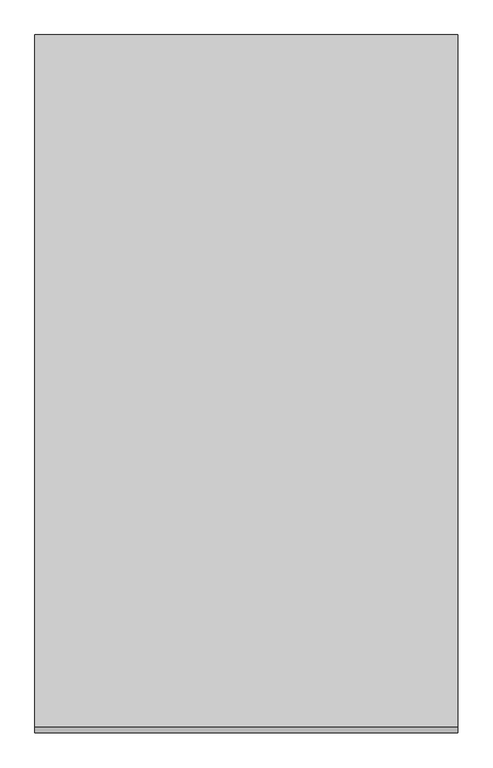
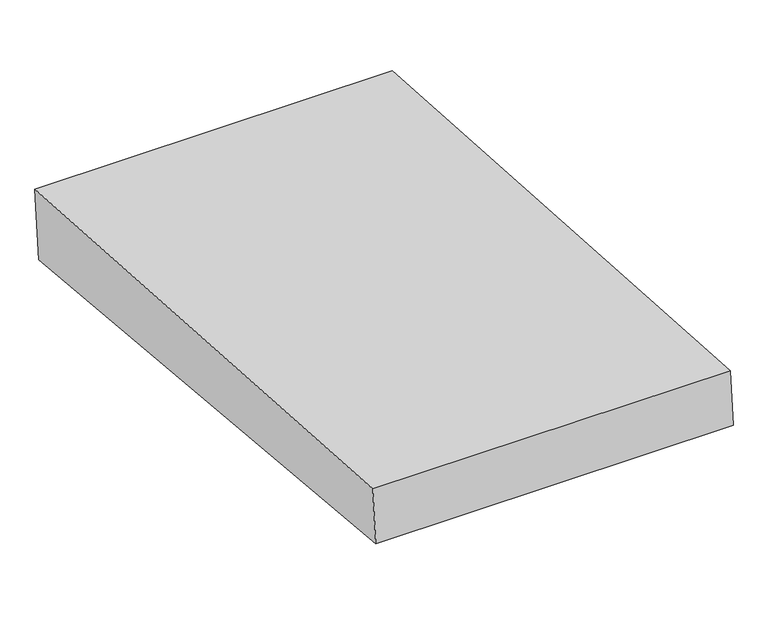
"""IFC4 building model written with IfcOpenShell, lengths in millimetres: proxy geometry, Excavation FamilySP : Excavation FamilySP."""

from ifc_helpers import new_model, si_unit, frame, origin, place, context, project, spatial, polyline, outline, extrude, source, transform, mapped, element, save


def generic_models_5d5d0a57(model_context):
    return source(origin(), model_context, "Body", "SweptSolid", [
        extrude(outline(polyline([(55.6242559, 601.3192699), (0.0, 0.0), (-4978.7439903, 460.5522282), (-4935.6205658, 926.7327772), (55.6242559, 601.3192699)])), frame((-1524.0, 0.0, 0.0), z_axis=(1.0, 0.0, 0.0), x_axis=(0.0, 1.0, 0.0)), (0.0, 0.0, 1.0), 3048.0),
    ])


if __name__ == "__main__":
    model = new_model("IFC4")
    model_context = context("Model", 3, world=origin())
    ifc_project = project(units=[si_unit("LENGTHUNIT", "METRE", prefix="MILLI")], contexts=[model_context])
    site = spatial("IfcSite", under=ifc_project)
    building = spatial("IfcBuilding", under=site)
    placement = place(None, origin())
    generic_models_shape = generic_models_5d5d0a57(model_context)
    element("IfcBuildingElementProxy", 1, Name="Excavation FamilySP : Excavation FamilySP", ObjectType="Excavation FamilySP : Excavation FamilySP", at=placement, inside=building, context=model_context, shape_type="MappedRepresentation", body=[
        mapped(generic_models_shape, transform((0.0, 0.0, 0.0), x_axis=(1.0, 0.0, 0.0), y_axis=(0.0, 1.0, 0.0), z_axis=(0.0, 0.0, 1.0))),
    ])
    save(model, "model.ifc")
